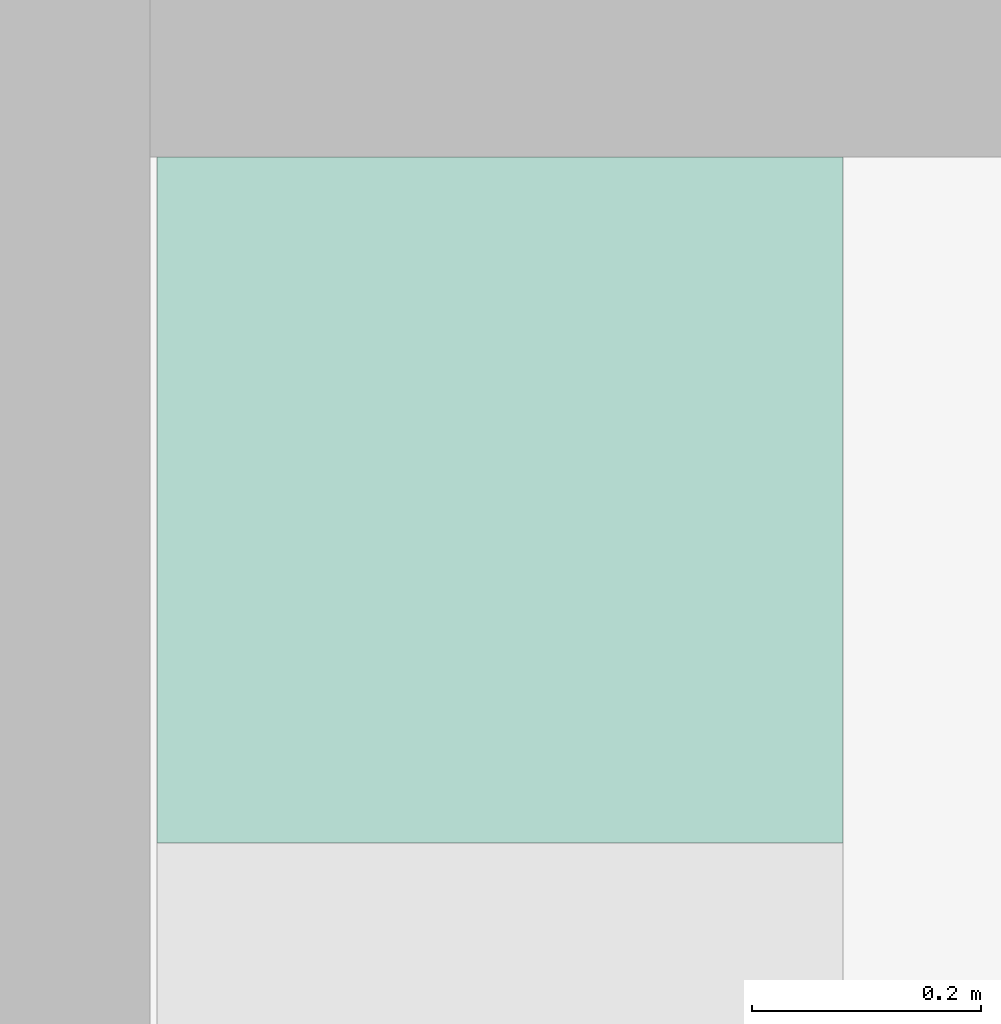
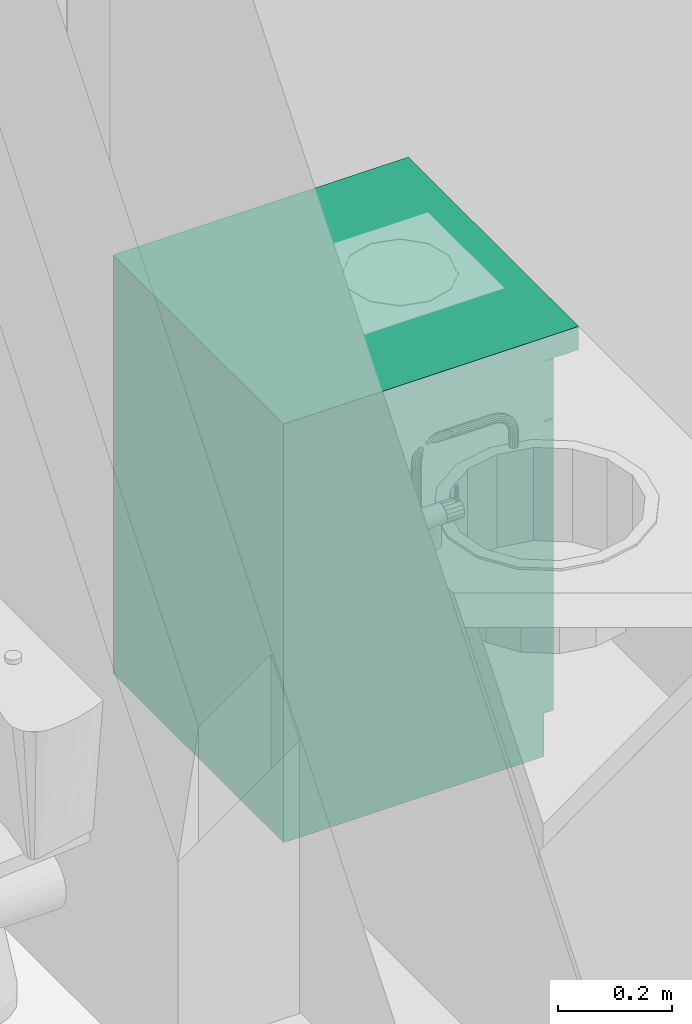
# One storey, part 51 of 172: 1 flow terminal.
"""IFC2X3 building model written with IfcOpenShell, lengths in millimetres."""

from ifc_helpers import new_model, entity, si_unit, converted_unit, money_unit, direction, frame, origin_with_axes, place, context, subcontext, project, spatial, faceted_brep, source, transform, mapped, material, material_list, type_object, element, save


model = new_model("IFC2X3")

# Units and contexts
model_context = context("Model", 3, precision=1e-05, world=origin_with_axes(), true_north=direction((0.0, 1.0)))
body_context = subcontext(model_context, "Body", "Model", "MODEL_VIEW")
ifc_project = project(units=[si_unit("LENGTHUNIT", "METRE", prefix="MILLI"), si_unit("AREAUNIT", "SQUARE_METRE"), si_unit("VOLUMEUNIT", "CUBIC_METRE"), converted_unit("PLANEANGLEUNIT", "DEGREE", entity("IfcPlaneAngleMeasure", 0.0174532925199), si_unit("PLANEANGLEUNIT", "RADIAN"), dimensions=[0, 0, 0, 0, 0, 0, 0]), si_unit("SOLIDANGLEUNIT", "STERADIAN"), money_unit("USD"), converted_unit("TIMEUNIT", "Year", entity("IfcTimeMeasure", 31556926.0), si_unit("TIMEUNIT", "SECOND"), dimensions=[0, 0, 0, 0, 0, 0, 0]), si_unit("MASSUNIT", "GRAM"), si_unit("THERMODYNAMICTEMPERATUREUNIT", "DEGREE_CELSIUS"), si_unit("LUMINOUSINTENSITYUNIT", "LUMEN")], contexts=[model_context])

# Site, building, storey
site_placement = place(None, origin_with_axes())
site = spatial("IfcSite", under=ifc_project, at=site_placement, Name="Site", CompositionType="ELEMENT")
building_placement = place(site_placement, origin_with_axes())
building = spatial("IfcBuilding", under=site, at=building_placement, Name="Building", CompositionType="ELEMENT")
storey_placement = place(building_placement, frame((0.0, 0.0, 3200.0), z_axis=(0.0, 0.0, 1.0), x_axis=(1.0, 0.0, 0.0)))
storey = spatial("IfcBuildingStorey", under=building, at=storey_placement, Name="3KORRUS", CompositionType="ELEMENT", Elevation=3200.0)

# Flow terminal
ifc_material = material(Name="Background")
ifc_material_list = material_list([ifc_material])
sanitary_terminal_type = type_object("IfcSanitaryTerminalType", Name="Cabinet Base Single Door 19", PredefinedType="SINK")
shared_shape = source(origin_with_axes(), body_context, "Body", "Brep", [
    faceted_brep([(20.0, 70.0, 710.0), (580.0, 70.0, 710.0), (580.0, 70.0, 730.0), (20.0, 70.0, 730.0), (20.0, 580.0, 710.0), (580.0, 580.0, 710.0), (580.0, 580.0, 730.0), (20.0, 580.0, 730.0)], [[[0, 1, 2, 3]], [[0, 4, 5, 1]], [[1, 5, 6, 2]], [[3, 2, 6, 7]], [[4, 0, 3, 7]], [[5, 4, 7, 6]]]),
    faceted_brep([(0.0, 70.0, 0.0), (600.0, 70.0, 0.0), (600.0, 70.0, 90.0), (0.0, 70.0, 90.0), (0.0, 600.0, 0.0), (600.0, 600.0, 0.0), (600.0, 600.0, 90.0), (0.0, 600.0, 90.0)], [[[0, 1, 2, 3]], [[0, 4, 5, 1]], [[1, 5, 6, 2]], [[3, 2, 6, 7]], [[4, 0, 3, 7]], [[5, 4, 7, 6]]]),
    faceted_brep([(0.0, 70.0, 830.0), (20.0, 70.0, 830.0), (20.0, 70.0, 850.0), (0.0, 70.0, 850.0), (0.0, 600.0, 830.0), (20.0, 600.0, 830.0), (580.0, 600.0, 830.0), (600.0, 600.0, 830.0), (600.0, 70.0, 830.0), (580.0, 70.0, 830.0), (580.0, 70.0, 850.0), (600.0, 70.0, 850.0), (600.0, 600.0, 850.0), (580.0, 600.0, 850.0), (20.0, 600.0, 850.0), (0.0, 600.0, 850.0)], [[[0, 1, 2, 3]], [[0, 4, 5, 6, 7, 8, 9, 1]], [[1, 9, 10, 2]], [[3, 2, 10, 11, 12, 13, 14, 15]], [[4, 0, 3, 15]], [[5, 4, 15, 14]], [[6, 5, 14, 13]], [[7, 6, 13, 12]], [[8, 7, 12, 11]], [[9, 8, 11, 10]]]),
    faceted_brep([(0.0, 70.0, 90.0), (20.0, 70.0, 90.0), (20.0, 70.0, 110.0), (0.0, 70.0, 110.0), (0.0, 600.0, 90.0), (20.0, 600.0, 90.0), (580.0, 600.0, 90.0), (600.0, 600.0, 90.0), (600.0, 70.0, 90.0), (580.0, 70.0, 90.0), (580.0, 70.0, 110.0), (600.0, 70.0, 110.0), (600.0, 600.0, 110.0), (580.0, 600.0, 110.0), (20.0, 600.0, 110.0), (0.0, 600.0, 110.0)], [[[0, 1, 2, 3]], [[0, 4, 5, 6, 7, 8, 9, 1]], [[1, 9, 10, 2]], [[3, 2, 10, 11, 12, 13, 14, 15]], [[4, 0, 3, 15]], [[5, 4, 15, 14]], [[6, 5, 14, 13]], [[7, 6, 13, 12]], [[8, 7, 12, 11]], [[9, 8, 11, 10]]]),
    faceted_brep([(0.0, 70.0, 110.0), (20.0, 70.0, 110.0), (20.0, 70.0, 830.0), (0.0, 70.0, 830.0), (0.0, 600.0, 110.0), (600.0, 600.0, 110.0), (600.0, 70.0, 110.0), (580.0, 70.0, 110.0), (580.0, 580.0, 110.0), (20.0, 580.0, 110.0), (20.0, 580.0, 830.0), (580.0, 580.0, 830.0), (580.0, 70.0, 830.0), (600.0, 70.0, 830.0), (600.0, 600.0, 830.0), (0.0, 600.0, 830.0)], [[[0, 1, 2, 3]], [[0, 4, 5, 6, 7, 8, 9, 1]], [[1, 9, 10, 2]], [[3, 2, 10, 11, 12, 13, 14, 15]], [[4, 0, 3, 15]], [[5, 4, 15, 14]], [[6, 5, 14, 13]], [[7, 6, 13, 12]], [[8, 7, 12, 11]], [[9, 8, 11, 10]]]),
    faceted_brep([(580.0, 70.0, 385.0), (580.0, 580.0, 385.0), (580.0, 580.0, 405.0), (580.0, 70.0, 405.0), (20.0, 70.0, 385.0), (20.0, 580.0, 385.0), (20.0, 580.0, 405.0), (20.0, 70.0, 405.0)], [[[0, 1, 2, 3]], [[0, 4, 5, 1]], [[1, 5, 6, 2]], [[3, 2, 6, 7]], [[4, 0, 3, 7]], [[5, 4, 7, 6]]]),
    faceted_brep([(0.0, 0.0, 850.0), (600.0, 0.0, 850.0), (600.0, 0.0, 900.0), (0.0, 0.0, 900.0), (0.0, 600.0, 850.0), (600.0, 600.0, 850.0), (600.0, 600.0, 900.0), (0.0, 600.0, 900.0)], [[[0, 1, 2, 3]], [[0, 4, 5, 1]], [[1, 5, 6, 2]], [[3, 2, 6, 7]], [[4, 0, 3, 7]], [[5, 4, 7, 6]]]),
    faceted_brep([(1.5, 70.0, 721.5), (598.5, 70.0, 721.5), (598.5, 50.0, 721.5), (1.5, 50.0, 721.5), (1.5, 70.0, 848.5), (598.5, 70.0, 848.5), (598.5, 50.0, 848.5), (1.5, 50.0, 848.5)], [[[0, 1, 2, 3]], [[0, 4, 5, 1]], [[1, 5, 6, 2]], [[3, 2, 6, 7]], [[4, 0, 3, 7]], [[5, 4, 7, 6]]]),
    faceted_brep([(295.408, 50.0, 773.913), (291.515, 50.0, 776.515), (288.913, 50.0, 780.408), (288.0, 50.0, 785.0), (288.913, 50.0, 789.592), (291.515, 50.0, 793.485), (295.408, 50.0, 796.087), (300.0, 50.0, 797.0), (304.592, 50.0, 796.087), (308.485, 50.0, 793.485), (311.087, 50.0, 789.592), (312.0, 50.0, 785.0), (311.087, 50.0, 780.408), (308.485, 50.0, 776.515), (304.592, 50.0, 773.913), (300.0, 50.0, 773.0), (295.408, 25.0, 773.913), (291.515, 25.0, 776.515), (288.913, 25.0, 780.408), (288.0, 25.0, 785.0), (288.913, 25.0, 789.592), (291.515, 25.0, 793.485), (295.408, 25.0, 796.087), (300.0, 25.0, 797.0), (304.592, 25.0, 796.087), (308.485, 25.0, 793.485), (311.087, 25.0, 789.592), (312.0, 25.0, 785.0), (311.087, 25.0, 780.408), (308.485, 25.0, 776.515), (304.592, 25.0, 773.913), (300.0, 25.0, 773.0)], [[[0, 1, 2, 3, 4, 5, 6, 7, 8, 9, 10, 11, 12, 13, 14, 15]], [[1, 0, 16, 17]], [[2, 1, 17, 18]], [[3, 2, 18, 19]], [[4, 3, 19, 20]], [[5, 4, 20, 21]], [[6, 5, 21, 22]], [[7, 6, 22, 23]], [[8, 7, 23, 24]], [[9, 8, 24, 25]], [[10, 9, 25, 26]], [[11, 10, 26, 27]], [[12, 11, 27, 28]], [[13, 12, 28, 29]], [[14, 13, 29, 30]], [[15, 14, 30, 31]], [[0, 15, 31, 16]], [[16, 31, 30, 29, 28, 27, 26, 25, 24, 23, 22, 21, 20, 19, 18, 17]]]),
    faceted_brep([(1.5, 70.0, 91.5), (598.5, 70.0, 91.5), (598.5, 50.0, 91.5), (1.5, 50.0, 91.5), (1.5, 70.0, 718.5), (598.5, 70.0, 718.5), (598.5, 50.0, 718.5), (1.5, 50.0, 718.5)], [[[0, 1, 2, 3]], [[0, 4, 5, 1]], [[1, 5, 6, 2]], [[3, 2, 6, 7]], [[4, 0, 3, 7]], [[5, 4, 7, 6]]]),
    faceted_brep([(559.587, 50.0, 636.908), (556.985, 50.0, 633.015), (553.092, 50.0, 630.413), (548.5, 50.0, 629.5), (543.908, 50.0, 630.413), (540.015, 50.0, 633.015), (537.413, 50.0, 636.908), (536.5, 50.0, 641.5), (537.413, 50.0, 646.092), (540.015, 50.0, 649.985), (543.908, 50.0, 652.587), (548.5, 50.0, 653.5), (553.092, 50.0, 652.587), (556.985, 50.0, 649.985), (559.587, 50.0, 646.092), (560.5, 50.0, 641.5), (559.587, 25.0, 636.908), (556.985, 25.0, 633.015), (553.092, 25.0, 630.413), (548.5, 25.0, 629.5), (543.908, 25.0, 630.413), (540.015, 25.0, 633.015), (537.413, 25.0, 636.908), (536.5, 25.0, 641.5), (537.413, 25.0, 646.092), (540.015, 25.0, 649.985), (543.908, 25.0, 652.587), (548.5, 25.0, 653.5), (553.092, 25.0, 652.587), (556.985, 25.0, 649.985), (559.587, 25.0, 646.092), (560.5, 25.0, 641.5)], [[[0, 1, 2, 3, 4, 5, 6, 7, 8, 9, 10, 11, 12, 13, 14, 15]], [[1, 0, 16, 17]], [[2, 1, 17, 18]], [[3, 2, 18, 19]], [[4, 3, 19, 20]], [[5, 4, 20, 21]], [[6, 5, 21, 22]], [[7, 6, 22, 23]], [[8, 7, 23, 24]], [[9, 8, 24, 25]], [[10, 9, 25, 26]], [[11, 10, 26, 27]], [[12, 11, 27, 28]], [[13, 12, 28, 29]], [[14, 13, 29, 30]], [[15, 14, 30, 31]], [[0, 15, 31, 16]], [[16, 31, 30, 29, 28, 27, 26, 25, 24, 23, 22, 21, 20, 19, 18, 17]]]),
])
flow_terminal_placement = place(storey_placement, frame((-23384.008308, -13789.2398994, 0.0), z_axis=(0.0, 0.0, 1.0), x_axis=(0.0, 1.0, 0.0)))
element("IfcFlowTerminal", 1, at=flow_terminal_placement, inside=storey, type_object=sanitary_terminal_type, material=ifc_material_list, Name="FU - 007", context=body_context, shape_type="MappedRepresentation", body=[
    mapped(shared_shape, transform((0.0, 0.0, 0.0))),
])

save(model, "model.ifc")
